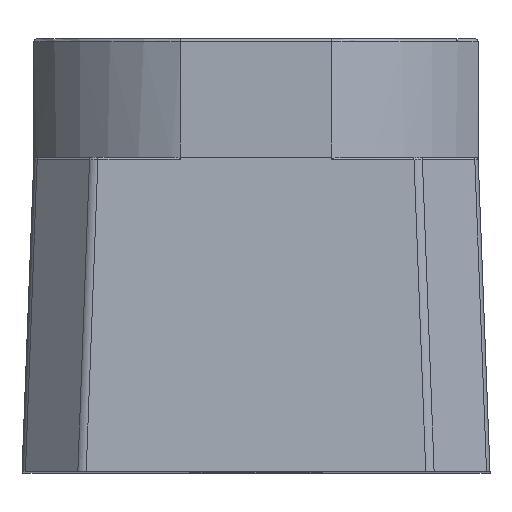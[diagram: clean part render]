
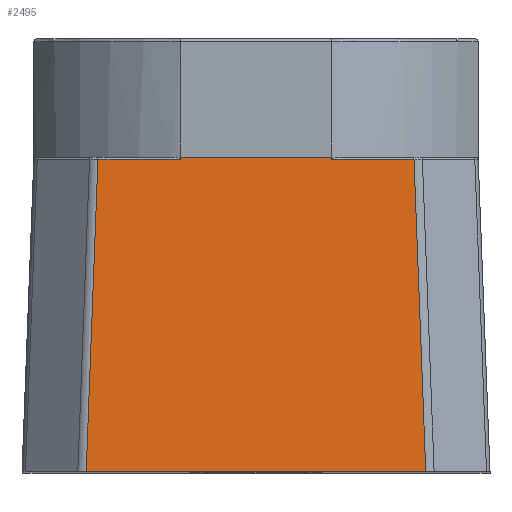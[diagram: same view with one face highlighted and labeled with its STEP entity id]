
A CAD part, top view. The second image highlights one B-rep face of the part: STEP entity #2495.
In plain terms, the highlighted planar face has unit normal (0, 0.038, 0.999).
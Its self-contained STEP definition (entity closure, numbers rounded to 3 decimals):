
#82 = CARTESIAN_POINT ( 'NONE',  ( -1.281, 5.3, 11.4 ) ) ;
#220 = EDGE_CURVE ( 'NONE', #630, #1999, #1085, .T. ) ;
#433 = FACE_OUTER_BOUND ( 'NONE', #725, .T. ) ;
#445 = DIRECTION ( 'NONE',  ( 0., -0.038, -0.999 ) ) ;
#520 =( BOUNDED_CURVE ( )  B_SPLINE_CURVE ( 3, ( #82, #2930, #1136, #1382 ),
 .UNSPECIFIED., .F., .F. ) 
 B_SPLINE_CURVE_WITH_KNOTS ( ( 4, 4 ),
 ( 2.832, 2.833 ),
 .UNSPECIFIED. ) 
 CURVE ( )  GEOMETRIC_REPRESENTATION_ITEM ( )  RATIONAL_B_SPLINE_CURVE ( ( 1., 1., 1., 1. ) ) 
 REPRESENTATION_ITEM ( '' )  );
#600 = CARTESIAN_POINT ( 'NONE',  ( 1.281, 5.3, 11.4 ) ) ;
#628 = VERTEX_POINT ( 'NONE', #1794 ) ;
#630 = VERTEX_POINT ( 'NONE', #2079 ) ;
#705 = CARTESIAN_POINT ( 'NONE',  ( 2.865, 0., 11.6 ) ) ;
#725 = EDGE_LOOP ( 'NONE', ( #2675, #1887, #1924, #1833, #1079, #1525, #863, #2768 ) ) ;
#740 = CARTESIAN_POINT ( 'NONE',  ( -2.749, 5.252, 11.402 ) ) ;
#797 = PLANE ( 'NONE',  #2487 ) ;
#818 = DIRECTION ( 'NONE',  ( 1., 0., 0. ) ) ;
#837 = VECTOR ( 'NONE', #1993, 1000. ) ;
#863 = ORIENTED_EDGE ( 'NONE', *, *, #220, .F. ) ;
#902 = VECTOR ( 'NONE', #1077, 1000. ) ;
#945 = LINE ( 'NONE', #1746, #837 ) ;
#1008 = CARTESIAN_POINT ( 'NONE',  ( -1.275, 5.252, 11.402 ) ) ;
#1071 = CARTESIAN_POINT ( 'NONE',  ( 3.75, 5.3, 11.4 ) ) ;
#1077 = DIRECTION ( 'NONE',  ( -1., 0., 0. ) ) ;
#1079 = ORIENTED_EDGE ( 'NONE', *, *, #3021, .T. ) ;
#1085 = LINE ( 'NONE', #1071, #1257 ) ;
#1109 = CARTESIAN_POINT ( 'NONE',  ( -2.866, 0., 11.6 ) ) ;
#1136 = CARTESIAN_POINT ( 'NONE',  ( -1.277, 5.268, 11.401 ) ) ;
#1140 = VERTEX_POINT ( 'NONE', #3080 ) ;
#1257 = VECTOR ( 'NONE', #818, 1000. ) ;
#1351 = EDGE_CURVE ( 'NONE', #1140, #1999, #3229, .T. ) ;
#1382 = CARTESIAN_POINT ( 'NONE',  ( -1.275, 5.252, 11.402 ) ) ;
#1422 = EDGE_CURVE ( 'NONE', #2869, #2671, #2828, .T. ) ;
#1435 = DIRECTION ( 'NONE',  ( -0.038, -0.999, 0.038 ) ) ;
#1525 = ORIENTED_EDGE ( 'NONE', *, *, #1351, .T. ) ;
#1533 = DIRECTION ( 'NONE',  ( -0.038, 0.999, -0.038 ) ) ;
#1743 = LINE ( 'NONE', #1823, #2053 ) ;
#1746 = CARTESIAN_POINT ( 'NONE',  ( 3.95, 0., 11.6 ) ) ;
#1794 = CARTESIAN_POINT ( 'NONE',  ( 2.667, 5.252, 11.402 ) ) ;
#1823 = CARTESIAN_POINT ( 'NONE',  ( 2.667, 5.249, 11.402 ) ) ;
#1833 = ORIENTED_EDGE ( 'NONE', *, *, #2829, .T. ) ;
#1845 = DIRECTION ( 'NONE',  ( 0., 0.999, -0.038 ) ) ;
#1887 = ORIENTED_EDGE ( 'NONE', *, *, #3123, .T. ) ;
#1912 = LINE ( 'NONE', #2777, #2224 ) ;
#1924 = ORIENTED_EDGE ( 'NONE', *, *, #2509, .T. ) ;
#1993 = DIRECTION ( 'NONE',  ( 1., 0., 0. ) ) ;
#1999 = VERTEX_POINT ( 'NONE', #600 ) ;
#2053 = VECTOR ( 'NONE', #1533, 1000. ) ;
#2079 = CARTESIAN_POINT ( 'NONE',  ( -1.281, 5.3, 11.4 ) ) ;
#2139 = CARTESIAN_POINT ( 'NONE',  ( 1.281, 5.252, 11.402 ) ) ;
#2149 = CARTESIAN_POINT ( 'NONE',  ( 1.277, 5.268, 11.401 ) ) ;
#2170 = CARTESIAN_POINT ( 'NONE',  ( 1.281, 5.3, 11.4 ) ) ;
#2215 = VECTOR ( 'NONE', #2850, 1000. ) ;
#2224 = VECTOR ( 'NONE', #1435, 1000. ) ;
#2356 = CARTESIAN_POINT ( 'NONE',  ( 1.275, 5.252, 11.402 ) ) ;
#2380 = LINE ( 'NONE', #2139, #902 ) ;
#2487 = AXIS2_PLACEMENT_3D ( 'NONE', #2510, #445, #1845 ) ;
#2495 = ADVANCED_FACE ( 'NONE', ( #433 ), #797, .F. ) ;
#2509 = EDGE_CURVE ( 'NONE', #3087, #2931, #945, .T. ) ;
#2510 = CARTESIAN_POINT ( 'NONE',  ( 0., 0.437, 11.584 ) ) ;
#2606 = EDGE_CURVE ( 'NONE', #630, #2869, #520, .T. ) ;
#2671 = VERTEX_POINT ( 'NONE', #2946 ) ;
#2675 = ORIENTED_EDGE ( 'NONE', *, *, #1422, .T. ) ;
#2768 = ORIENTED_EDGE ( 'NONE', *, *, #2606, .T. ) ;
#2777 = CARTESIAN_POINT ( 'NONE',  ( -2.867, -0.003, 11.6 ) ) ;
#2828 = LINE ( 'NONE', #740, #2215 ) ;
#2829 = EDGE_CURVE ( 'NONE', #2931, #628, #1743, .T. ) ;
#2850 = DIRECTION ( 'NONE',  ( -1., 0., 0. ) ) ;
#2869 = VERTEX_POINT ( 'NONE', #1008 ) ;
#2930 = CARTESIAN_POINT ( 'NONE',  ( -1.279, 5.284, 11.401 ) ) ;
#2931 = VERTEX_POINT ( 'NONE', #705 ) ;
#2946 = CARTESIAN_POINT ( 'NONE',  ( -2.668, 5.252, 11.402 ) ) ;
#3021 = EDGE_CURVE ( 'NONE', #628, #1140, #2380, .T. ) ;
#3080 = CARTESIAN_POINT ( 'NONE',  ( 1.275, 5.252, 11.402 ) ) ;
#3087 = VERTEX_POINT ( 'NONE', #1109 ) ;
#3123 = EDGE_CURVE ( 'NONE', #2671, #3087, #1912, .T. ) ;
#3150 = CARTESIAN_POINT ( 'NONE',  ( 1.279, 5.284, 11.401 ) ) ;
#3229 =( BOUNDED_CURVE ( )  B_SPLINE_CURVE ( 3, ( #2356, #2149, #3150, #2170 ),
 .UNSPECIFIED., .F., .T. ) 
 B_SPLINE_CURVE_WITH_KNOTS ( ( 4, 4 ),
 ( 3.45, 3.451 ),
 .UNSPECIFIED. ) 
 CURVE ( )  GEOMETRIC_REPRESENTATION_ITEM ( )  RATIONAL_B_SPLINE_CURVE ( ( 1., 1., 1., 1. ) ) 
 REPRESENTATION_ITEM ( '' )  );
